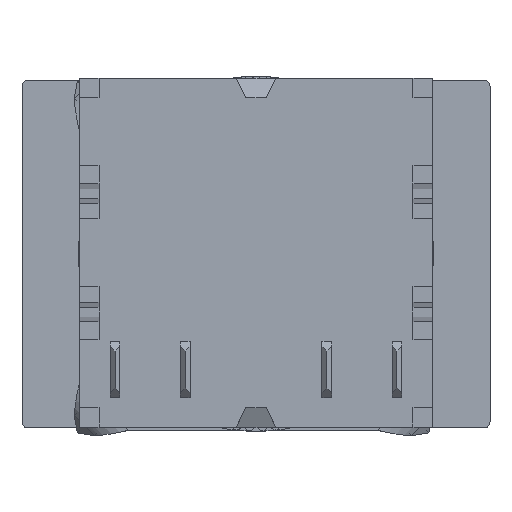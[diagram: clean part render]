
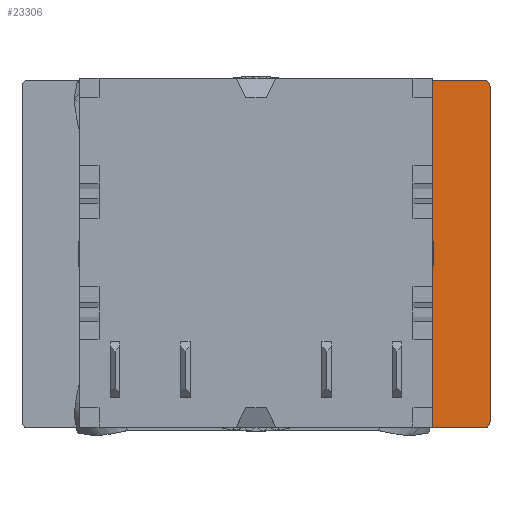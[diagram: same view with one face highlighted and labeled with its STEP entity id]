
A CAD part, top view. The second image highlights one B-rep face of the part: STEP entity #23306.
In plain terms, the highlighted planar face has unit normal (0, 0, 1).
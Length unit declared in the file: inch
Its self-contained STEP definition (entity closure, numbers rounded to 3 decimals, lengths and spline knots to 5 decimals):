
#4401=CARTESIAN_POINT('',(9.1,9.1,-48.6));
#4402=DIRECTION('',(0.,0.,1.));
#4403=DIRECTION('',(1.,0.,0.));
#4404=AXIS2_PLACEMENT_3D('',#4401,#4402,#4403);
#4406=CARTESIAN_POINT('',(20.8,17.7,-48.6));
#4407=DIRECTION('',(0.,0.,-1.));
#4408=DIRECTION('',(0.,1.,0.));
#4409=AXIS2_PLACEMENT_3D('',#4406,#4407,#4408);
#4411=CARTESIAN_POINT('',(20.8,0.5,-48.6));
#4412=DIRECTION('',(0.,0.,-1.));
#4413=DIRECTION('',(1.,0.,0.));
#4414=AXIS2_PLACEMENT_3D('',#4411,#4412,#4413);
#4416=CARTESIAN_POINT('',(9.1,9.1,-48.6));
#4417=DIRECTION('',(0.,0.,1.));
#4418=DIRECTION('',(0.149,-0.989,0.));
#4419=AXIS2_PLACEMENT_3D('',#4416,#4417,#4418);
#4451=DIRECTION('',(-0.169,0.986,0.));
#4452=VECTOR('',#4451,0.56523);
#4453=CARTESIAN_POINT('',(17.62924,0.26094,-48.6));
#4454=LINE('',#4453,#4452);
#4455=DIRECTION('',(-0.707,-0.707,0.));
#4456=VECTOR('',#4455,0.65268);
#4457=CARTESIAN_POINT('',(17.53366,0.81803,-48.6));
#4458=LINE('',#4457,#4456);
#4459=DIRECTION('',(-0.986,0.169,0.));
#4460=VECTOR('',#4459,0.56523);
#4461=CARTESIAN_POINT('',(17.62924,0.26094,-48.6));
#4462=LINE('',#4461,#4460);
#4463=DIRECTION('',(-0.169,-0.986,0.));
#4464=VECTOR('',#4463,0.60198);
#4465=CARTESIAN_POINT('',(17.63545,17.62586,-48.6));
#4466=LINE('',#4465,#4464);
#4467=DIRECTION('',(-0.986,-0.169,0.));
#4468=VECTOR('',#4467,0.60198);
#4469=CARTESIAN_POINT('',(17.63545,17.62586,-48.6));
#4470=LINE('',#4469,#4468);
#4471=DIRECTION('',(-0.707,0.707,0.));
#4472=VECTOR('',#4471,0.6951);
#4473=CARTESIAN_POINT('',(17.53366,17.03255,-48.6));
#4474=LINE('',#4473,#4472);
#11502=DIRECTION('',(-1.,0.,0.));
#11503=VECTOR('',#11502,10.36209);
#11504=CARTESIAN_POINT('',(20.8,18.,-48.6));
#11505=LINE('',#11504,#11503);
#11520=DIRECTION('',(1.,0.,0.));
#11521=VECTOR('',#11520,10.36209);
#11522=CARTESIAN_POINT('',(10.43791,0.2,-48.6));
#11523=LINE('',#11522,#11521);
#11594=DIRECTION('',(0.,1.,0.));
#11595=VECTOR('',#11594,17.2);
#11596=CARTESIAN_POINT('',(21.1,0.5,-48.6));
#11597=LINE('',#11596,#11595);
#17844=CARTESIAN_POINT('',(20.8,18.,-48.6));
#17845=CARTESIAN_POINT('',(21.1,17.7,-48.6));
#17846=VERTEX_POINT('',#17844);
#17847=VERTEX_POINT('',#17845);
#17848=CARTESIAN_POINT('',(21.1,0.5,-48.6));
#17849=CARTESIAN_POINT('',(20.8,0.2,-48.6));
#17850=VERTEX_POINT('',#17848);
#17851=VERTEX_POINT('',#17849);
#19752=CARTESIAN_POINT('',(18.1,9.1,-48.6));
#19753=CARTESIAN_POINT('',(10.43791,18.,-48.6));
#19754=VERTEX_POINT('',#19752);
#19755=VERTEX_POINT('',#19753);
#19762=CARTESIAN_POINT('',(10.43791,0.2,-48.6));
#19763=VERTEX_POINT('',#19762);
#19788=CARTESIAN_POINT('',(17.62924,0.26094,-48.6));
#19789=CARTESIAN_POINT('',(17.53366,0.81803,-48.6));
#19790=VERTEX_POINT('',#19788);
#19791=VERTEX_POINT('',#19789);
#19792=CARTESIAN_POINT('',(17.63545,17.62586,-48.6));
#19793=CARTESIAN_POINT('',(17.53366,17.03255,-48.6));
#19794=VERTEX_POINT('',#19792);
#19795=VERTEX_POINT('',#19793);
#19796=CARTESIAN_POINT('',(17.04214,17.52407,-48.6));
#19797=VERTEX_POINT('',#19796);
#19798=CARTESIAN_POINT('',(17.07214,0.35652,-48.6));
#19799=VERTEX_POINT('',#19798);
#23271=CARTESIAN_POINT('',(9.1,9.1,-48.6));
#23272=DIRECTION('',(0.,0.,1.));
#23273=DIRECTION('',(0.,-1.,0.));
#23274=AXIS2_PLACEMENT_3D('',#23271,#23272,#23273);
#23275=PLANE('',#23274);
#23276=ORIENTED_EDGE('',*,*,#23156,.T.);
#23278=ORIENTED_EDGE('',*,*,#23277,.F.);
#23280=ORIENTED_EDGE('',*,*,#23279,.T.);
#23282=ORIENTED_EDGE('',*,*,#23281,.F.);
#23284=ORIENTED_EDGE('',*,*,#23283,.T.);
#23286=ORIENTED_EDGE('',*,*,#23285,.F.);
#23288=ORIENTED_EDGE('',*,*,#23287,.T.);
#23289=EDGE_LOOP('',(#23276,#23278,#23280,#23282,#23284,#23286,#23288));
#23290=FACE_OUTER_BOUND('',#23289,.F.);
#23292=ORIENTED_EDGE('',*,*,#23291,.T.);
#23294=ORIENTED_EDGE('',*,*,#23293,.T.);
#23296=ORIENTED_EDGE('',*,*,#23295,.F.);
#23297=EDGE_LOOP('',(#23292,#23294,#23296));
#23298=FACE_BOUND('',#23297,.F.);
#23299=ORIENTED_EDGE('',*,*,#23259,.F.);
#23301=ORIENTED_EDGE('',*,*,#23300,.T.);
#23303=ORIENTED_EDGE('',*,*,#23302,.F.);
#23304=EDGE_LOOP('',(#23299,#23301,#23303));
#23305=FACE_BOUND('',#23304,.F.);
#23306=ADVANCED_FACE('',(#23290,#23298,#23305),#23275,.T.);
#4405=CIRCLE('',#4404,9.);
#4410=CIRCLE('',#4409,0.3);
#4415=CIRCLE('',#4414,0.3);
#4420=CIRCLE('',#4419,9.);
#23156=EDGE_CURVE('',#19754,#19755,#4405,.T.);
#23259=EDGE_CURVE('',#19794,#19795,#4466,.T.);
#23277=EDGE_CURVE('',#17846,#19755,#11505,.T.);
#23279=EDGE_CURVE('',#17846,#17847,#4410,.T.);
#23281=EDGE_CURVE('',#17850,#17847,#11597,.T.);
#23283=EDGE_CURVE('',#17850,#17851,#4415,.T.);
#23285=EDGE_CURVE('',#19763,#17851,#11523,.T.);
#23287=EDGE_CURVE('',#19763,#19754,#4420,.T.);
#23291=EDGE_CURVE('',#19790,#19791,#4454,.T.);
#23293=EDGE_CURVE('',#19791,#19799,#4458,.T.);
#23295=EDGE_CURVE('',#19790,#19799,#4462,.T.);
#23300=EDGE_CURVE('',#19794,#19797,#4470,.T.);
#23302=EDGE_CURVE('',#19795,#19797,#4474,.T.);
